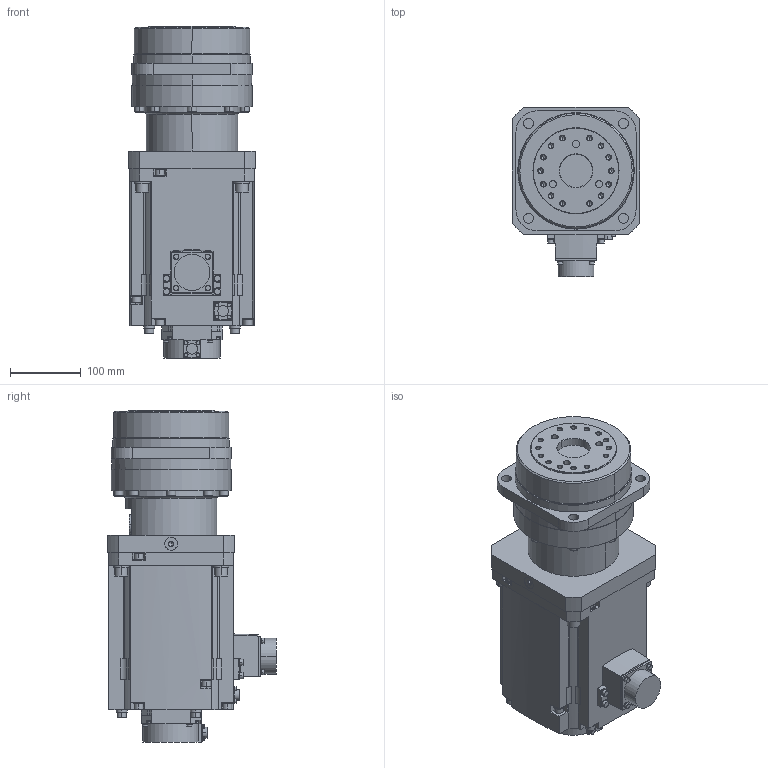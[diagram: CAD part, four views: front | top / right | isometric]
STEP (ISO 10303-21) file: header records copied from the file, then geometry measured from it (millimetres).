
FILE_DESCRIPTION((''),'2;1');
FILE_NAME('HG-SR702BG5_05','2018-02-16T',('MW68716'),(''),'CREO PARAMETRIC BY PTC INC, 2016380','CREO PARAMETRIC BY PTC INC, 2016380','');
FILE_SCHEMA(('CONFIG_CONTROL_DESIGN'));
Length unit declared in the file: millimetre
Products named in the file (1): HG-SR702BG5_05
Bounding box: 180 x 239.1 x 470 mm (x, y, z)
Volume: 10730027.4 mm3; surface area: 407262.7 mm2
Topology: 1 solids, 1 shells, 753 faces, 1786 edges, 1139 vertices
Faces by surface type: plane 339, cylinder 323, cone 91
Entity records: 21723 total; most frequent: DIRECTION 4016, CARTESIAN_POINT 3697, ORIENTED_EDGE 3512, EDGE_CURVE 1756, AXIS2_PLACEMENT_3D 1511, VERTEX_POINT 1139, VECTOR 994, LINE 994
